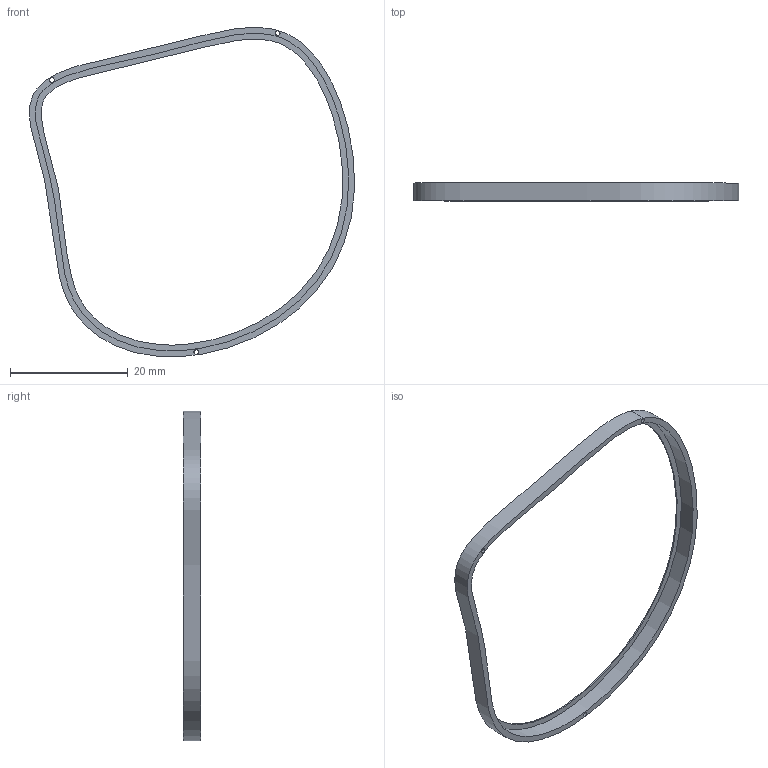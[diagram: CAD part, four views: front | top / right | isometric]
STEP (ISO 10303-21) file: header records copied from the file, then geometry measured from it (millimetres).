
FILE_DESCRIPTION(/* description */ ('STEP AP242 Edition 2','CAx-IF Rec.Pracs.---Representation and Presentation of Product Manufacturing Information (PMI)---4.0---2014-10-13','CAx-IF Rec.Pracs.---3D Tessellated Geometry---0.4---2014-09-14','2;1','CAx-IF Rec.Pracs.---User Defined Attributes---1.5---2016-08-15'),/* implementation_level */ '2;1');
FILE_NAME(/* name */ 'main - Part 35 - right lens gasket',/* time_stamp */ '2026-11-08T20:03:44Z',/* author */ (''),/* organization */ (''),/* preprocessor_version */ 'ST-DEVELOPER v20',/* originating_system */ 'ONSHAPE BY PTC INC, 1.223',/* authorisation */ ' ');
FILE_SCHEMA (('AP242_MANAGED_MODEL_BASED_3D_ENGINEERING_MIM_LF { 1 0 10303 442 3 1 4 }'));
Length unit declared in the file: metre
Products named in the file (1): Part 35 - right lens gasket
Bounding box: 55.12 x 3 x 55.84 mm (x, y, z)
Volume: 581.1 mm3; surface area: 1761.4 mm2
Topology: 1 solids, 1 shells, 9 faces, 18 edges, 12 vertices
Faces by surface type: bspline 3, plane 3, cylinder 3
Full cylindrical faces by diameter (mm): 0.8 x3
Entity records: 1520 total; most frequent: CARTESIAN_POINT 1329, DIRECTION 26, ORIENTED_EDGE 24, EDGE_LOOP 24, FACE_BOUND 24, AXIS2_PLACEMENT_3D 13, EDGE_CURVE 12, VERTEX_POINT 12
